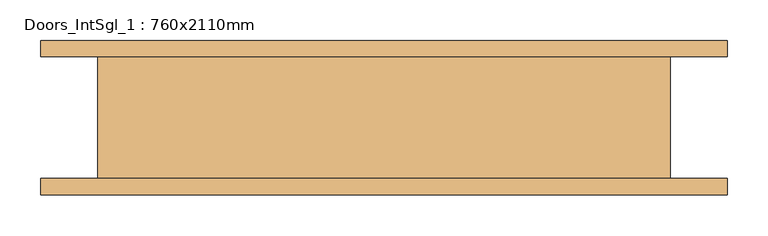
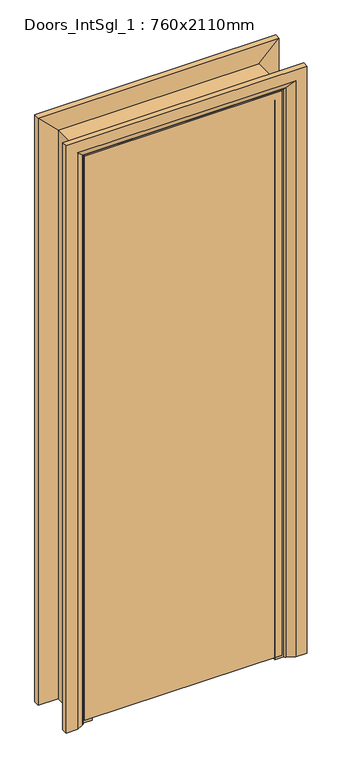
"""IFC4 building model written with IfcOpenShell, lengths in millimetres: door geometry, Doors_IntSgl_1 : 760x2110mm."""

import ifcopenshell
import ifcopenshell.guid

model = None  # the IFC model being written
_history = None  # IfcOwnerHistory: only IFC2X3 demands one
_inside = {}  # id of a spatial element -> (the spatial element, [elements in it])
_under = {}  # id of a project, library or spatial element -> (it, [spatial elements below it])
_declared = {}  # id of a project -> (the project, [libraries it declares])
_typed = {}  # id of a type object -> (the type object, [elements of that type])
_made_of = {}  # id of a material, layer set ... -> (it, [elements and type objects made of it])


def new_model(schema):
    """Start an empty IFC model of exactly this schema.

    Asked for "IFC4X3", IfcOpenShell would pick the latest addendum, in which some entities
    have other attributes; the version numbers below select the first issue.
    IFC2X3 requires an IfcOwnerHistory on every rooted entity: one is made here for all.
    """
    global model, _history
    if schema == "IFC4X3":
        model = ifcopenshell.file(schema_version=(4, 3, 0, 0))
    else:
        model = ifcopenshell.file(schema=schema)
    _inside.clear()
    _under.clear()
    _declared.clear()
    _typed.clear()
    _made_of.clear()
    _history = None
    if model.schema == "IFC2X3":
        org = make("IfcOrganization", Name="unknown")
        user = make(
            "IfcPersonAndOrganization",
            ThePerson=make("IfcPerson", FamilyName="unknown"),
            TheOrganization=org,
        )
        app = make(
            "IfcApplication",
            ApplicationDeveloper=org,
            Version="unknown",
            ApplicationFullName="unknown",
            ApplicationIdentifier="unknown",
        )
        _history = make(
            "IfcOwnerHistory",
            OwningUser=user,
            OwningApplication=app,
            ChangeAction="ADDED",
            CreationDate=0,
        )
    return model


def make(cls, **values):
    """One entity of the class cls with the attributes given. An attribute that is None is left unset."""
    return model.create_entity(
        cls, **{name: value for name, value in values.items() if value is not None}
    )


def rooted(cls, **values):
    """An entity with a GlobalId (a new one), such as an element, a storey or a relation."""
    return make(cls, GlobalId=ifcopenshell.guid.new(), OwnerHistory=_history, **values)


def si_unit(unit_type, name, prefix=None):
    """IfcSIUnit, for example si_unit("LENGTHUNIT", "METRE", prefix="MILLI")."""
    return make("IfcSIUnit", UnitType=unit_type, Prefix=prefix, Name=name)


def assignment(units):
    """IfcUnitAssignment: the units of a project."""
    return None if units is None else make("IfcUnitAssignment", Units=units)


def point(xyz):
    """IfcCartesianPoint."""
    return None if xyz is None else make("IfcCartesianPoint", Coordinates=xyz)


def direction(xyz):
    """IfcDirection."""
    return None if xyz is None else make("IfcDirection", DirectionRatios=xyz)


def frame(location, z_axis=None, x_axis=None):
    """IfcAxis2Placement3D, a coordinate frame: its origin and axes. An axis left out is left unset."""
    return make(
        "IfcAxis2Placement3D",
        Location=point(location),
        Axis=direction(z_axis),
        RefDirection=direction(x_axis),
    )


def origin():
    """The frame at (0, 0, 0) with its axes left unset."""
    return frame((0.0, 0.0, 0.0))


def place(relative_to, where):
    """IfcLocalPlacement: puts the frame where relative to a parent placement (None: the world)."""
    return make(
        "IfcLocalPlacement", PlacementRelTo=relative_to, RelativePlacement=where
    )


def context(
    kind, dimensions, precision=None, world=None, true_north=None, identifier=None
):
    """IfcGeometricRepresentationContext, for example the 3D "Model" context."""
    return make(
        "IfcGeometricRepresentationContext",
        ContextIdentifier=identifier,
        ContextType=kind,
        CoordinateSpaceDimension=dimensions,
        Precision=precision,
        WorldCoordinateSystem=world,
        TrueNorth=true_north,
    )


def project(units=None, contexts=None):
    """IfcProject with its units and contexts."""
    return rooted(
        "IfcProject",
        Name="project",
        RepresentationContexts=contexts,
        UnitsInContext=assignment(units),
    )


def spatial(cls, under=None, at=None, **own):
    """A site, building, storey or space (cls), placed at a placement, below another one or the project."""
    s = rooted(cls, ObjectPlacement=at, **own)
    if under is not None:
        _under.setdefault(under.id(), (under, []))[1].append(s)
    return s


def polyline(points):
    """IfcPolyline through the points."""
    return make("IfcPolyline", Points=[point(p) for p in points])


def circle_curve(where, radius):
    """IfcCircle in the frame where."""
    return make("IfcCircle", Position=where, Radius=radius)


def ellipse_curve(where, semi_axis1, semi_axis2):
    """IfcEllipse in the frame where."""
    return make(
        "IfcEllipse", Position=where, SemiAxis1=semi_axis1, SemiAxis2=semi_axis2
    )


def outline(outer, holes=None, kind="AREA"):
    """IfcArbitraryClosedProfileDef: a profile drawn as a closed curve; with holes, ...WithVoids."""
    if holes is None:
        return make("IfcArbitraryClosedProfileDef", ProfileType=kind, OuterCurve=outer)
    return make(
        "IfcArbitraryProfileDefWithVoids",
        ProfileType=kind,
        OuterCurve=outer,
        InnerCurves=holes,
    )


def extrude(swept, where, along, depth):
    """IfcExtrudedAreaSolid: the profile swept, set in the frame where, extruded along a direction by depth."""
    return make(
        "IfcExtrudedAreaSolid",
        SweptArea=swept,
        Position=where,
        ExtrudedDirection=direction(along),
        Depth=depth,
    )


def faces_of(points, faces, orient=None, outer=None):
    """IfcFace entities. A face is a list of loops; a loop is a list of indices into points, from 0.

    orient and outer hold one flag for each loop. By default every Orientation is true, the
    first loop of a face is its IfcFaceOuterBound and the others are IfcFaceBound.
    """
    made = []
    for i, loops in enumerate(faces):
        bounds = []
        for j, loop in enumerate(loops):
            is_outer = j == 0 if outer is None else outer[i][j]
            bounds.append(
                make(
                    "IfcFaceOuterBound" if is_outer else "IfcFaceBound",
                    Bound=make("IfcPolyLoop", Polygon=[points[k] for k in loop]),
                    Orientation=True if orient is None else orient[i][j],
                )
            )
        made.append(make("IfcFace", Bounds=bounds))
    return made


def faceted_brep(points, faces, orient=None, outer=None, voids=None):
    """IfcFacetedBrep: a solid bounded by flat faces; with voids (closed shells), ...WithVoids."""
    shared = [point(p) for p in points]
    hull = make("IfcClosedShell", CfsFaces=faces_of(shared, faces, orient, outer))
    if voids is None:
        return make("IfcFacetedBrep", Outer=hull)
    return make(
        "IfcFacetedBrepWithVoids",
        Outer=hull,
        Voids=[
            make(cls, CfsFaces=faces_of(shared, fs, o, b)) for cls, fs, o, b in voids
        ],
    )


def shape(context_of_items, identifier, shape_type, items):
    """IfcShapeRepresentation: the items that make up one representation, for example the "Body"."""
    return make(
        "IfcShapeRepresentation",
        ContextOfItems=context_of_items,
        RepresentationIdentifier=identifier,
        RepresentationType=shape_type,
        Items=items,
    )


def source(mapping_origin, context_of_items, identifier, shape_type, items):
    """IfcRepresentationMap: a shape defined once, which mapped items show again and again."""
    return make(
        "IfcRepresentationMap",
        MappingOrigin=mapping_origin,
        MappedRepresentation=shape(context_of_items, identifier, shape_type, items),
    )


def transform(
    local_origin,
    x_axis=None,
    y_axis=None,
    z_axis=None,
    scale=None,
    scale2=None,
    scale3=None,
    uniform=True,
):
    """IfcCartesianTransformationOperator3D, or its non-uniform kind. x_axis, y_axis, z_axis: its Axis1, 2, 3."""
    if uniform:
        return make(
            "IfcCartesianTransformationOperator3D",
            Axis1=direction(x_axis),
            Axis2=direction(y_axis),
            LocalOrigin=point(local_origin),
            Scale=scale,
            Axis3=direction(z_axis),
        )
    return make(
        "IfcCartesianTransformationOperator3DnonUniform",
        Axis1=direction(x_axis),
        Axis2=direction(y_axis),
        LocalOrigin=point(local_origin),
        Scale=scale,
        Axis3=direction(z_axis),
        Scale2=scale2,
        Scale3=scale3,
    )


def mapped(mapping_source, mapping_target):
    """IfcMappedItem: shows the shape of a source again, moved by a transform."""
    return make(
        "IfcMappedItem", MappingSource=mapping_source, MappingTarget=mapping_target
    )


def made_of(thing, what):
    """Note that an element or type object is made of a material, layer set ...; save() writes the relation."""
    if what is not None:
        _made_of.setdefault(what.id(), (what, []))[1].append(thing)
    return thing


def element(
    cls,
    number,
    at=None,
    inside=None,
    cuts=None,
    type_object=None,
    material=None,
    context=None,
    identifier="Body",
    shape_type=None,
    held_by="IfcProductDefinitionShape",
    body=None,
    shapes=None,
    **own,
):
    """One element of the class cls, such as IfcWall. Its Tag is "e" and its number.

    at: its placement. inside: the storey or other place that contains it. cuts: it is an
    opening in that element (IfcRelVoidsElement). A single representation is given by context,
    identifier, shape_type and body (its items); several are given by shapes. held_by: the class
    of the entity that holds the representations. save() writes the other relations.
    """
    e = rooted(cls, Tag="e%d" % number, ObjectPlacement=at, **own)
    if body is not None:
        shapes = [shape(context, identifier, shape_type, body)]
    if shapes is not None:
        e.Representation = make(held_by, Representations=shapes)
    if inside is not None:
        _inside.setdefault(inside.id(), (inside, []))[1].append(e)
    if cuts is not None:
        rooted(
            "IfcRelVoidsElement", RelatingBuildingElement=cuts, RelatedOpeningElement=e
        )
    if type_object is not None:
        _typed.setdefault(type_object.id(), (type_object, []))[1].append(e)
    return made_of(e, material)


def aggregate(whole, parts):
    """IfcRelAggregates: a whole, such as a stair, and the parts it consists of."""
    return rooted("IfcRelAggregates", RelatingObject=whole, RelatedObjects=parts)


def save(model, path):
    """Write the relations noted so far, then the file.

    IfcRelAggregates (storeys below a building ...), IfcRelContainedInSpatialStructure (elements
    in a storey), IfcRelDefinesByType, IfcRelAssociatesMaterial and IfcRelDeclares: one each for
    every whole, place, type object, material and project.
    """
    for whole, parts in _under.values():
        aggregate(whole, parts)
    for where, things in _inside.values():
        rooted(
            "IfcRelContainedInSpatialStructure",
            RelatedElements=things,
            RelatingStructure=where,
        )
    for kind, things in _typed.values():
        rooted("IfcRelDefinesByType", RelatedObjects=things, RelatingType=kind)
    for what, things in _made_of.values():
        rooted("IfcRelAssociatesMaterial", RelatedObjects=things, RelatingMaterial=what)
    for by, libraries in _declared.values():
        rooted("IfcRelDeclares", RelatingContext=by, RelatedDefinitions=libraries)
    model.write(path)


def plane_surface(at):
    """IfcPlane: the flat surface through the origin of the frame at, square to its z axis."""
    return make("IfcPlane", Position=at)


def cylinder_surface(at, radius):
    """IfcCylindricalSurface: all points at the distance radius from the z axis of the frame at."""
    return make("IfcCylindricalSurface", Position=at, Radius=radius)


def advanced_brep(points, edges, surfaces, faces):
    """IfcAdvancedBrep: a solid bounded by faces that lie on surfaces and meet in shared edges.

    An edge is (start, end): straight between two places in points (the first is 0);
    or (start, end, curve); or (start, end, curve, False) where it runs against its curve.
    A face is (place in surfaces, loops), or (place, loops, False) where it looks against
    its surface's normal. A loop lists edges by number (the first is 1), with a minus sign
    where the edge is run from its end to its start. The first loop is the outer one.
    """
    corners = [point(p) for p in points]
    vertices = [make("IfcVertexPoint", VertexGeometry=c) for c in corners]
    made = []
    for start, end, *more in edges:
        made.append(
            make(
                "IfcEdgeCurve",
                EdgeStart=vertices[start],
                EdgeEnd=vertices[end],
                EdgeGeometry=more[0] if more else make("IfcPolyline", Points=[corners[start], corners[end]]),
                SameSense=more[1] if len(more) > 1 else True,
            )
        )
    hull = []
    for where, loops, *sense in faces:
        bounds = []
        for j, loop in enumerate(loops):
            ring = [make("IfcOrientedEdge", EdgeElement=made[abs(k) - 1], Orientation=k > 0) for k in loop]
            bounds.append(
                make(
                    "IfcFaceOuterBound" if j == 0 else "IfcFaceBound",
                    Bound=make("IfcEdgeLoop", EdgeList=ring),
                    Orientation=True,
                )
            )
        hull.append(make("IfcAdvancedFace", Bounds=bounds, FaceSurface=surfaces[where], SameSense=sense[0] if sense else True))
    return make("IfcAdvancedBrep", Outer=make("IfcClosedShell", CfsFaces=hull))


def doors_intsgl_1_760x2110mm_b66d165a(model_context):
    return source(origin(), model_context, "Body", "SolidModel", [
        extrude(outline(polyline([(345.0, -45.0), (345.0, -75.0), (-345.0, -75.0), (-345.0, -45.0), (345.0, -45.0)])), frame((0.0, 0.0, 8.0), z_axis=(0.0, 0.0, 1.0), x_axis=(1.0, 0.0, 0.0)), (0.0, 0.0, 1.0), 2087.0),
        advanced_brep(
        [(422.0, -95.0, 0.0), (382.0, -95.0, 0.0), (356.0, -81.0, 0.0), (352.0, -75.0, 0.0), (422.0, -75.0, 0.0), (422.0, -75.0, 2172.0), (422.0, -95.0, 2172.0), (352.0, -75.0, 2102.0), (-352.0, -75.0, 2102.0), (-352.0, -75.0, 0.0), (-422.0, -75.0, 0.0), (-422.0, -75.0, 2172.0), (356.0, -81.0, 2106.0), (382.0, -95.0, 2132.0), (-422.0, -95.0, 2172.0), (-422.0, -95.0, 0.0), (-382.0, -95.0, 0.0), (-382.0, -95.0, 2132.0), (-356.0, -81.0, 0.0), (-356.0, -81.0, 2106.0)],
        [
            (0, 1),
            (1, 2),
            (2, 3, circle_curve(frame((360.0, -74.0, 0.0), z_axis=(0.0, 0.0, -1.0), x_axis=(1.0, 0.0, 0.0)), 8.0622577)),
            (3, 4),
            (4, 0),
            (4, 5),
            (5, 6),
            (6, 0),
            (3, 7),
            (7, 8),
            (8, 9),
            (9, 10),
            (10, 11),
            (11, 5),
            (2, 12),
            (12, 7, ellipse_curve(frame((360.0, -74.0, 2110.0), z_axis=(0.7071067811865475, 0.0, -0.7071067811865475), x_axis=(-0.7071067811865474, 0.0, -0.7071067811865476)), 11.4017543, 8.0622577)),
            (1, 13),
            (13, 12),
            (6, 14),
            (14, 15),
            (15, 16),
            (16, 17),
            (17, 13),
            (10, 15),
            (14, 11),
            (9, 18, circle_curve(frame((-360.0, -74.0, 0.0), z_axis=(0.0, 0.0, -1.0), x_axis=(-1.0, 0.0, 0.0)), 8.0622577)),
            (18, 16),
            (19, 18),
            (8, 19, ellipse_curve(frame((-360.0, -74.0, 2110.0), z_axis=(-0.7071067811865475, 0.0, -0.7071067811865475), x_axis=(-0.7071067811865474, 0.0, 0.7071067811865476)), 11.4017543, 8.0622577)),
            (19, 17),
            (12, 19),
        ],
        [
            plane_surface(frame((352.0, -75.0, 0.0), z_axis=(0.0, 0.0, -1.0), x_axis=(0.0, 1.0, 0.0))),
            plane_surface(frame((422.0, -95.0, 0.0), z_axis=(1.0, 0.0, 0.0), x_axis=(0.0, 0.0, 1.0))),
            plane_surface(frame((422.0, -75.0, 0.0), z_axis=(0.0, 1.0, 0.0), x_axis=(0.0, 0.0, 1.0))),
            cylinder_surface(frame((360.0, -74.0, 0.0), z_axis=(0.0, 0.0, -1.0), x_axis=(1.0, 0.0, 0.0)), 8.0622577),
            plane_surface(frame((356.0, -81.0, 0.0), z_axis=(-0.4740998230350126, -0.880471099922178, 0.0), x_axis=(0.0, 0.0, 1.0))),
            plane_surface(frame((382.0, -95.0, 0.0), z_axis=(0.0, -1.0, 0.0), x_axis=(0.0, 0.0, 1.0))),
            plane_surface(frame((-422.0, -95.0, 2172.0), z_axis=(-1.0, 0.0, 0.0), x_axis=(0.0, 0.0, -1.0))),
            plane_surface(frame((-352.0, -75.0, 0.0), z_axis=(0.0, 0.0, -1.0), x_axis=(0.0, 1.0, 0.0))),
            cylinder_surface(frame((-360.0, -74.0, 2102.0), z_axis=(0.0, 0.0, 1.0), x_axis=(-1.0, 0.0, 0.0)), 8.0622577),
            plane_surface(frame((-356.0, -81.0, 2106.0), z_axis=(0.47409982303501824, -0.8804710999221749, 0.0), x_axis=(0.0, 0.0, -1.0))),
            plane_surface(frame((422.0, -95.0, 2172.0), z_axis=(0.0, 0.0, 1.0), x_axis=(-1.0, 0.0, 0.0))),
            cylinder_surface(frame((352.0, -74.0, 2110.0), z_axis=(1.0, 0.0, 0.0), x_axis=(0.0, 0.0, 1.0)), 8.0622577),
            plane_surface(frame((356.0, -81.0, 2106.0), z_axis=(0.0, -0.8804710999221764, -0.4740998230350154), x_axis=(-1.0, 0.0, 0.0))),
        ],
        [
            (0, [[1, 2, 3, 4, 5]]),
            (1, [[6, 7, 8, -5]]),
            (2, [[9, 10, 11, 12, 13, 14, -6, -4]]),
            (3, [[15, 16, -9, -3]]),
            (4, [[17, 18, -15, -2]]),
            (5, [[-8, 19, 20, 21, 22, 23, -17, -1]]),
            (6, [[-13, 24, -20, 25]]),
            (7, [[-24, -12, 26, 27, -21]]),
            (8, [[28, -26, -11, 29]]),
            (9, [[-22, -27, -28, 30]]),
            (10, [[-14, -25, -19, -7]]),
            (11, [[31, -29, -10, -16]]),
            (12, [[-23, -30, -31, -18]]),
        ],
    ),
        extrude(outline(polyline([(0.0, -328.0), (2078.0, -328.0), (2078.0, 328.0), (0.0, 328.0), (0.0, 347.0), (2097.0, 347.0), (2097.0, -347.0), (0.0, -347.0), (0.0, -328.0)])), frame((0.0, -43.0, 0.0), z_axis=(0.0, 1.0, 0.0), x_axis=(0.0, 0.0, 1.0)), (0.0, 0.0, 1.0), 32.0),
        advanced_brep(
        [(-422.0, 95.0, 0.0), (-382.0, 95.0, 0.0), (-356.0, 81.0, 0.0), (-352.0, 75.0, 0.0), (-422.0, 75.0, 0.0), (-422.0, 75.0, 2172.0), (-422.0, 95.0, 2172.0), (-352.0, 75.0, 2102.0), (-356.0, 81.0, 2106.0), (-382.0, 95.0, 2132.0), (422.0, 95.0, 0.0), (422.0, 75.0, 0.0), (352.0, 75.0, 0.0), (356.0, 81.0, 0.0), (382.0, 95.0, 0.0), (422.0, 95.0, 2172.0), (382.0, 95.0, 2132.0), (356.0, 81.0, 2106.0), (352.0, 75.0, 2102.0), (422.0, 75.0, 2172.0)],
        [
            (0, 1),
            (1, 2),
            (2, 3, circle_curve(frame((-360.0, 74.0, 0.0), z_axis=(0.0, 0.0, -1.0), x_axis=(-1.0, 0.0, 0.0)), 8.0622577)),
            (3, 4),
            (4, 0),
            (4, 5),
            (5, 6),
            (6, 0),
            (3, 7),
            (7, 5),
            (2, 8),
            (8, 7, ellipse_curve(frame((-360.0, 74.0, 2110.0), z_axis=(-0.7071067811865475, 0.0, -0.7071067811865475), x_axis=(0.7071067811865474, 0.0, -0.7071067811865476)), 11.4017543, 8.0622577)),
            (1, 9),
            (9, 8),
            (6, 9),
            (10, 11),
            (11, 12),
            (12, 13, circle_curve(frame((360.0, 74.0, 0.0), z_axis=(0.0, 0.0, -1.0), x_axis=(1.0, 0.0, 0.0)), 8.0622577)),
            (13, 14),
            (14, 10),
            (15, 10),
            (14, 16),
            (16, 15),
            (13, 17),
            (17, 16),
            (12, 18),
            (18, 17, ellipse_curve(frame((360.0, 74.0, 2110.0), z_axis=(0.7071067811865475, 0.0, -0.7071067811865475), x_axis=(0.7071067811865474, 0.0, 0.7071067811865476)), 11.4017543, 8.0622577)),
            (11, 19),
            (19, 18),
            (15, 19),
            (5, 19),
            (15, 6),
            (7, 18),
            (8, 17),
            (9, 16),
        ],
        [
            plane_surface(frame((-352.0, 147.8010989, 0.0), z_axis=(0.0, 0.0, -1.0), x_axis=(1.0, 0.0, 0.0))),
            plane_surface(frame((-422.0, 95.0, 0.0), z_axis=(-1.0, 0.0, 0.0), x_axis=(0.0, 0.0, 1.0))),
            plane_surface(frame((-422.0, 75.0, 0.0), z_axis=(0.0, -1.0, 0.0), x_axis=(0.0, 0.0, 1.0))),
            cylinder_surface(frame((-360.0, 74.0, 0.0), z_axis=(0.0, 0.0, -1.0), x_axis=(-1.0, 0.0, 0.0)), 8.0622577),
            plane_surface(frame((-356.0, 81.0, 0.0), z_axis=(0.4740998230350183, 0.8804710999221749, 0.0), x_axis=(0.0, 0.0, 1.0))),
            plane_surface(frame((-382.0, 95.0, 0.0), z_axis=(0.0, 1.0, 0.0), x_axis=(0.0, 0.0, 1.0))),
            plane_surface(frame((352.0, 147.8010989, 0.0), z_axis=(0.0, 0.0, -1.0), x_axis=(-1.0, 0.0, 0.0))),
            plane_surface(frame((382.0, 95.0, 2132.0), z_axis=(0.0, 1.0, 0.0), x_axis=(0.0, 0.0, -1.0))),
            plane_surface(frame((356.0, 81.0, 2106.0), z_axis=(-0.4740998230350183, 0.8804710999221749, 0.0), x_axis=(0.0, 0.0, -1.0))),
            cylinder_surface(frame((360.0, 74.0, 2102.0), z_axis=(0.0, 0.0, 1.0), x_axis=(1.0, 0.0, 0.0)), 8.0622577),
            plane_surface(frame((422.0, 75.0, 2172.0), z_axis=(0.0, -1.0, 0.0), x_axis=(0.0, 0.0, -1.0))),
            plane_surface(frame((422.0, 95.0, 2172.0), z_axis=(1.0, 0.0, 0.0), x_axis=(0.0, 0.0, -1.0))),
            plane_surface(frame((-422.0, 95.0, 2172.0), z_axis=(0.0, 0.0, 1.0), x_axis=(1.0, 0.0, 0.0))),
            plane_surface(frame((-422.0, 75.0, 2172.0), z_axis=(0.0, -1.0, 0.0), x_axis=(1.0, 0.0, 0.0))),
            cylinder_surface(frame((-352.0, 74.0, 2110.0), z_axis=(-1.0, 0.0, 0.0), x_axis=(0.0, 0.0, 1.0)), 8.0622577),
            plane_surface(frame((-356.0, 81.0, 2106.0), z_axis=(0.0, 0.8804710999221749, -0.4740998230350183), x_axis=(1.0, 0.0, 0.0))),
            plane_surface(frame((-382.0, 95.0, 2132.0), z_axis=(0.0, 1.0, 0.0), x_axis=(1.0, 0.0, 0.0))),
        ],
        [
            (0, [[1, 2, 3, 4, 5]]),
            (1, [[6, 7, 8, -5]]),
            (2, [[9, 10, -6, -4]]),
            (3, [[11, 12, -9, -3]]),
            (4, [[13, 14, -11, -2]]),
            (5, [[-8, 15, -13, -1]]),
            (6, [[16, 17, 18, 19, 20]]),
            (7, [[21, -20, 22, 23]]),
            (8, [[-22, -19, 24, 25]]),
            (9, [[-24, -18, 26, 27]]),
            (10, [[-26, -17, 28, 29]]),
            (11, [[-28, -16, -21, 30]]),
            (12, [[31, -30, 32, -7]]),
            (13, [[33, -29, -31, -10]]),
            (14, [[34, -27, -33, -12]]),
            (15, [[35, -25, -34, -14]]),
            (16, [[-32, -23, -35, -15]]),
        ],
    ),
        faceted_brep([(-320.0, -75.0, 0.0), (-352.0, -75.0, 0.0), (-352.0, 75.0, 0.0), (-320.0, 75.0, 0.0), (-320.0, 75.0, 2070.0), (-320.0, -75.0, 2070.0), (-352.0, 75.0, 2102.0), (-352.0, -75.0, 2102.0), (320.0, -75.0, 0.0), (320.0, 75.0, 0.0), (352.0, 75.0, 0.0), (352.0, -75.0, 0.0), (320.0, -75.0, 2070.0), (352.0, -75.0, 2102.0), (352.0, 75.0, 2102.0), (320.0, 75.0, 2070.0)], [[[0, 1, 2, 3]], [[3, 4, 5, 0]], [[2, 6, 4, 3]], [[1, 7, 6, 2]], [[0, 5, 7, 1]], [[8, 9, 10, 11]], [[12, 8, 11, 13]], [[13, 11, 10, 14]], [[14, 10, 9, 15]], [[15, 9, 8, 12]], [[4, 15, 12, 5]], [[6, 14, 15, 4]], [[7, 13, 14, 6]], [[5, 12, 13, 7]]]),
    ])


if __name__ == "__main__":
    model = new_model("IFC4")
    model_context = context("Model", 3, world=origin())
    ifc_project = project(units=[si_unit("LENGTHUNIT", "METRE", prefix="MILLI")], contexts=[model_context])
    site = spatial("IfcSite", under=ifc_project)
    building = spatial("IfcBuilding", under=site)
    placement = place(None, origin())
    doors_intsgl_1_760x2110mm_shape = doors_intsgl_1_760x2110mm_b66d165a(model_context)
    element("IfcDoor", 1, ObjectType="Doors_IntSgl_1 : 760x2110mm", at=placement, inside=building, context=model_context, shape_type="MappedRepresentation", body=[
        mapped(doors_intsgl_1_760x2110mm_shape, transform((0.0, 0.0, 0.0), x_axis=(1.0, 0.0, 0.0), y_axis=(0.0, 1.0, 0.0), z_axis=(0.0, 0.0, 1.0))),
    ])
    save(model, "model.ifc")
